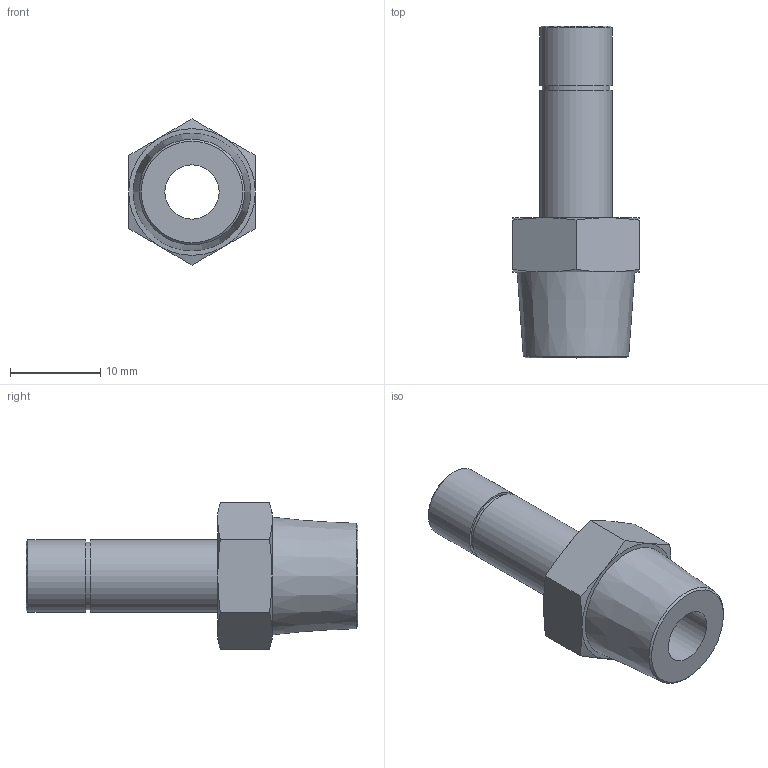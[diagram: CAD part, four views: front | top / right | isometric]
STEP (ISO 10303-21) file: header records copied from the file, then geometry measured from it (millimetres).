
FILE_DESCRIPTION(/* description */ (''),/* implementation_level */ '2;1');
FILE_NAME(/* name */ 'LXH15 0008 B2.stp',/* time_stamp */ '2026-04-28T15:46:52+02:00',/* author */ ('freju'),/* organization */ (''),/* preprocessor_version */ 'ST-DEVELOPER v20.1',/* originating_system */ 'Autodesk Inventor 2026',/* authorisation */ '');
FILE_SCHEMA (('AUTOMOTIVE_DESIGN { 1 0 10303 214 3 1 1 }'));
Length unit declared in the file: millimetre
Products named in the file (1): LXH15 0008 B2
Bounding box: 14 x 36.7 x 16.17 mm (x, y, z)
Volume: 2171.9 mm3; surface area: 2136.7 mm2
Topology: 1 solids, 1 shells, 31 faces, 63 edges, 38 vertices
Faces by surface type: cone 15, plane 12, cylinder 4
Full cylindrical faces by diameter (mm): 6 x1, 7.5 x1, 8 x2
Entity records: 830 total; most frequent: CARTESIAN_POINT 181, DIRECTION 129, ORIENTED_EDGE 126, EDGE_CURVE 63, AXIS2_PLACEMENT_3D 58, VERTEX_POINT 38, EDGE_LOOP 37, FACE_OUTER_BOUND 31
